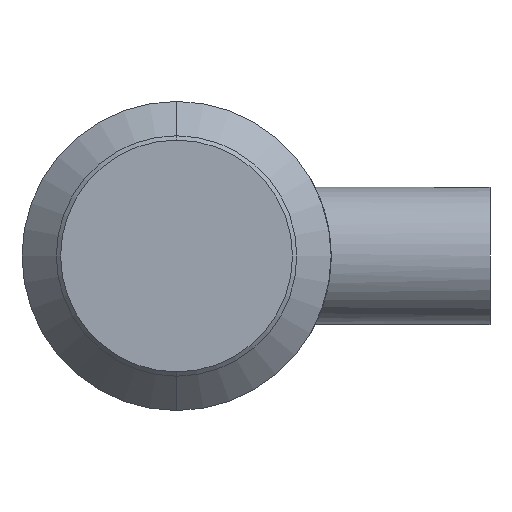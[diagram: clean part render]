
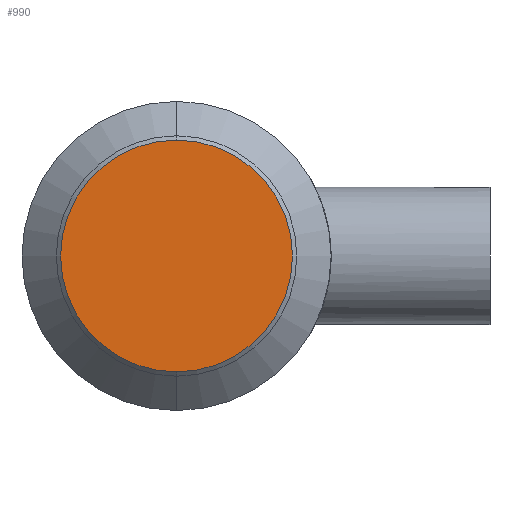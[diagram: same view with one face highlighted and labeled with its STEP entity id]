
A CAD part, left-side view. The second image highlights one B-rep face of the part: STEP entity #990.
In plain terms, the highlighted planar face has unit normal (-1, 0, 0).
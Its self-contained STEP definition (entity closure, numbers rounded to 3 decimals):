
#143 = CARTESIAN_POINT ( 'NONE',  ( 0., 0., -13.5 ) ) ;
#160 = AXIS2_PLACEMENT_3D ( 'NONE', #1619, #1498, #729 ) ;
#215 = DIRECTION ( 'NONE',  ( -1., 0., 0. ) ) ;
#397 = DIRECTION ( 'NONE',  ( 1., 0., 0. ) ) ;
#472 = CARTESIAN_POINT ( 'NONE',  ( 0., 0., 13.5 ) ) ;
#510 = ORIENTED_EDGE ( 'NONE', *, *, #1244, .T. ) ;
#637 = CARTESIAN_POINT ( 'NONE',  ( 0., 0., 0. ) ) ;
#646 = PLANE ( 'NONE',  #1424 ) ;
#729 = DIRECTION ( 'NONE',  ( 0., 0., 1. ) ) ;
#990 = ADVANCED_FACE ( 'NONE', ( #1366 ), #646, .F. ) ;
#992 = CARTESIAN_POINT ( 'NONE',  ( 0., 0., 0. ) ) ;
#1044 = DIRECTION ( 'NONE',  ( 0., 0., -1. ) ) ;
#1122 = DIRECTION ( 'NONE',  ( 0., 0., 1. ) ) ;
#1186 = VERTEX_POINT ( 'NONE', #143 ) ;
#1206 = AXIS2_PLACEMENT_3D ( 'NONE', #992, #215, #1122 ) ;
#1209 = CIRCLE ( 'NONE', #160, 13.5 ) ;
#1244 = EDGE_CURVE ( 'NONE', #1468, #1186, #1209, .T. ) ;
#1315 = ORIENTED_EDGE ( 'NONE', *, *, #1415, .T. ) ;
#1366 = FACE_OUTER_BOUND ( 'NONE', #1621, .T. ) ;
#1415 = EDGE_CURVE ( 'NONE', #1186, #1468, #1631, .T. ) ;
#1424 = AXIS2_PLACEMENT_3D ( 'NONE', #637, #397, #1044 ) ;
#1468 = VERTEX_POINT ( 'NONE', #472 ) ;
#1498 = DIRECTION ( 'NONE',  ( -1., 0., 0. ) ) ;
#1619 = CARTESIAN_POINT ( 'NONE',  ( 0., 0., 0. ) ) ;
#1621 = EDGE_LOOP ( 'NONE', ( #1315, #510 ) ) ;
#1631 = CIRCLE ( 'NONE', #1206, 13.5 ) ;
